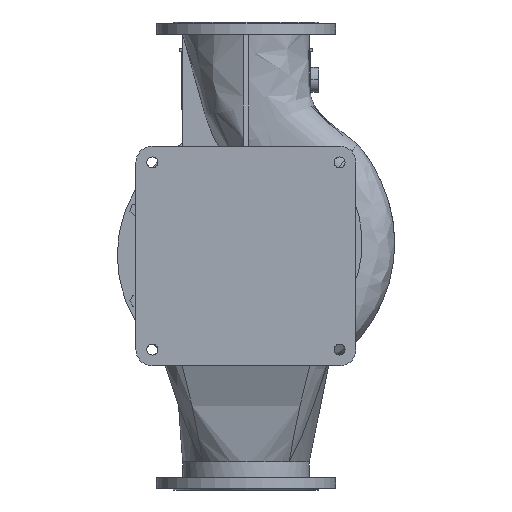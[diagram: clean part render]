
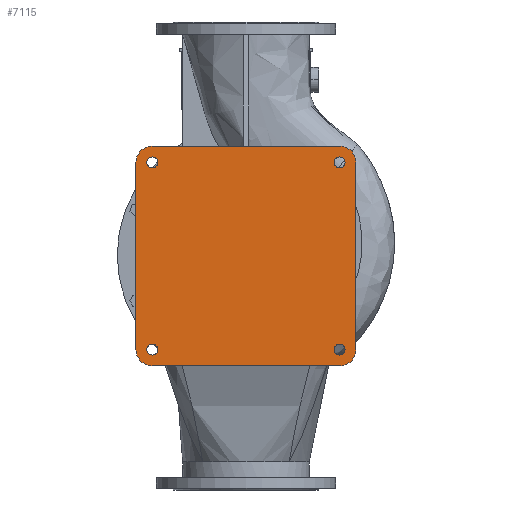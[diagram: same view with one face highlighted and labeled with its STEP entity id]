
A CAD part, front view. The second image highlights one B-rep face of the part: STEP entity #7115.
In plain terms, the highlighted planar face has unit normal (0, -1, 0).
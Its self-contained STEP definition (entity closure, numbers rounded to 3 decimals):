
#266 = AXIS2_PLACEMENT_3D ( 'NONE', #13751, #27599, #25156 ) ;
#874 = EDGE_CURVE ( 'NONE', #14026, #26870, #24909, .T. ) ;
#1160 = DIRECTION ( 'NONE',  ( 0., 0., 1. ) ) ;
#1498 = CARTESIAN_POINT ( 'NONE',  ( -240., -290., -282. ) ) ;
#1520 = LINE ( 'NONE', #21686, #19528 ) ;
#1585 = VECTOR ( 'NONE', #33171, 1000. ) ;
#1796 = CARTESIAN_POINT ( 'NONE',  ( -282., -290., -240. ) ) ;
#1958 = EDGE_LOOP ( 'NONE', ( #35408, #20367, #10116, #30332, #8263, #18002, #3985, #14419 ) ) ;
#2060 = DIRECTION ( 'NONE',  ( 0., 1., 0. ) ) ;
#2638 = CARTESIAN_POINT ( 'NONE',  ( 282., -290., 240. ) ) ;
#2854 = CARTESIAN_POINT ( 'NONE',  ( 282., -290., -240. ) ) ;
#3117 = VERTEX_POINT ( 'NONE', #27785 ) ;
#3171 = CARTESIAN_POINT ( 'NONE',  ( -282., -290., 240. ) ) ;
#3190 = DIRECTION ( 'NONE',  ( 0., 1., 0. ) ) ;
#3301 = CARTESIAN_POINT ( 'NONE',  ( 240., -290., -254. ) ) ;
#3978 = CARTESIAN_POINT ( 'NONE',  ( 240., -290., -240. ) ) ;
#3985 = ORIENTED_EDGE ( 'NONE', *, *, #874, .F. ) ;
#4105 = CARTESIAN_POINT ( 'NONE',  ( 240., -290., -226. ) ) ;
#4156 = EDGE_CURVE ( 'NONE', #13758, #14026, #1520, .T. ) ;
#4157 = DIRECTION ( 'NONE',  ( -1., 0., 0. ) ) ;
#4612 = LINE ( 'NONE', #1796, #19586 ) ;
#5128 = EDGE_CURVE ( 'NONE', #24677, #28329, #15959, .T. ) ;
#5185 = CARTESIAN_POINT ( 'NONE',  ( 240., -290., 240. ) ) ;
#5242 = AXIS2_PLACEMENT_3D ( 'NONE', #23022, #5846, #34646 ) ;
#5374 = EDGE_CURVE ( 'NONE', #15728, #24677, #35630, .T. ) ;
#5650 = DIRECTION ( 'NONE',  ( 0., 1., 0. ) ) ;
#5688 = CIRCLE ( 'NONE', #33777, 14. ) ;
#5846 = DIRECTION ( 'NONE',  ( 0., 1., 0. ) ) ;
#6019 = LINE ( 'NONE', #2854, #29874 ) ;
#6726 = CARTESIAN_POINT ( 'NONE',  ( -240., -290., 240. ) ) ;
#7115 = ADVANCED_FACE ( 'NONE', ( #32259, #34880, #27005, #21011, #29439 ), #32618, .T. ) ;
#7181 = CARTESIAN_POINT ( 'NONE',  ( 240., -290., 282. ) ) ;
#8005 = AXIS2_PLACEMENT_3D ( 'NONE', #3978, #26964, #29231 ) ;
#8263 = ORIENTED_EDGE ( 'NONE', *, *, #5374, .F. ) ;
#9253 = DIRECTION ( 'NONE',  ( 0., -1., 0. ) ) ;
#10007 = CIRCLE ( 'NONE', #5242, 14. ) ;
#10009 = EDGE_CURVE ( 'NONE', #31594, #17928, #23530, .T. ) ;
#10116 = ORIENTED_EDGE ( 'NONE', *, *, #12401, .F. ) ;
#10329 = VERTEX_POINT ( 'NONE', #32230 ) ;
#10573 = CARTESIAN_POINT ( 'NONE',  ( -282., -290., -240. ) ) ;
#10842 = DIRECTION ( 'NONE',  ( 0., 0., -1. ) ) ;
#11001 = EDGE_CURVE ( 'NONE', #28586, #33402, #5688, .T. ) ;
#11312 = ORIENTED_EDGE ( 'NONE', *, *, #17399, .T. ) ;
#11648 = VERTEX_POINT ( 'NONE', #35946 ) ;
#12155 = DIRECTION ( 'NONE',  ( 0., 0., 1. ) ) ;
#12208 = CIRCLE ( 'NONE', #266, 14. ) ;
#12227 = ORIENTED_EDGE ( 'NONE', *, *, #11001, .T. ) ;
#12318 = AXIS2_PLACEMENT_3D ( 'NONE', #33093, #36474, #10842 ) ;
#12401 = EDGE_CURVE ( 'NONE', #28329, #35635, #16486, .T. ) ;
#13713 = EDGE_LOOP ( 'NONE', ( #12227, #34643 ) ) ;
#13733 = EDGE_CURVE ( 'NONE', #33402, #28586, #10007, .T. ) ;
#13751 = CARTESIAN_POINT ( 'NONE',  ( -240., -290., 240. ) ) ;
#13758 = VERTEX_POINT ( 'NONE', #22826 ) ;
#14026 = VERTEX_POINT ( 'NONE', #1498 ) ;
#14178 = VERTEX_POINT ( 'NONE', #36085 ) ;
#14419 = ORIENTED_EDGE ( 'NONE', *, *, #4156, .F. ) ;
#14500 = DIRECTION ( 'NONE',  ( 0., 0., 1. ) ) ;
#15041 = DIRECTION ( 'NONE',  ( 0., 0., -1. ) ) ;
#15728 = VERTEX_POINT ( 'NONE', #3171 ) ;
#15959 = LINE ( 'NONE', #7181, #1585 ) ;
#16486 = CIRCLE ( 'NONE', #35066, 42. ) ;
#16525 = EDGE_LOOP ( 'NONE', ( #18303, #11312 ) ) ;
#17399 = EDGE_CURVE ( 'NONE', #11648, #10329, #26054, .T. ) ;
#17861 = DIRECTION ( 'NONE',  ( 0., 1., 0. ) ) ;
#17928 = VERTEX_POINT ( 'NONE', #4105 ) ;
#18002 = ORIENTED_EDGE ( 'NONE', *, *, #34549, .F. ) ;
#18303 = ORIENTED_EDGE ( 'NONE', *, *, #27498, .T. ) ;
#18472 = CARTESIAN_POINT ( 'NONE',  ( 240., -290., -240. ) ) ;
#19528 = VECTOR ( 'NONE', #4157, 1000. ) ;
#19586 = VECTOR ( 'NONE', #36018, 1000. ) ;
#20367 = ORIENTED_EDGE ( 'NONE', *, *, #23951, .F. ) ;
#21011 = FACE_BOUND ( 'NONE', #13713, .T. ) ;
#21135 = CARTESIAN_POINT ( 'NONE',  ( -240., -290., -240. ) ) ;
#21686 = CARTESIAN_POINT ( 'NONE',  ( -240., -290., -282. ) ) ;
#22826 = CARTESIAN_POINT ( 'NONE',  ( 240., -290., -282. ) ) ;
#23022 = CARTESIAN_POINT ( 'NONE',  ( 240., -290., 240. ) ) ;
#23530 = CIRCLE ( 'NONE', #26527, 14. ) ;
#23951 = EDGE_CURVE ( 'NONE', #35635, #31432, #6019, .T. ) ;
#24670 = CIRCLE ( 'NONE', #25894, 14. ) ;
#24675 = DIRECTION ( 'NONE',  ( 0., 0., -1. ) ) ;
#24677 = VERTEX_POINT ( 'NONE', #25972 ) ;
#24909 = CIRCLE ( 'NONE', #36276, 42. ) ;
#25156 = DIRECTION ( 'NONE',  ( 0., 0., 1. ) ) ;
#25201 = DIRECTION ( 'NONE',  ( 0., 1., 0. ) ) ;
#25450 = CARTESIAN_POINT ( 'NONE',  ( 240., -290., 226. ) ) ;
#25758 = ORIENTED_EDGE ( 'NONE', *, *, #10009, .T. ) ;
#25894 = AXIS2_PLACEMENT_3D ( 'NONE', #28104, #5650, #31461 ) ;
#25972 = CARTESIAN_POINT ( 'NONE',  ( -240., -290., 282. ) ) ;
#26054 = CIRCLE ( 'NONE', #27254, 14. ) ;
#26527 = AXIS2_PLACEMENT_3D ( 'NONE', #29452, #17861, #14500 ) ;
#26870 = VERTEX_POINT ( 'NONE', #10573 ) ;
#26964 = DIRECTION ( 'NONE',  ( 0., 1., 0. ) ) ;
#27005 = FACE_OUTER_BOUND ( 'NONE', #1958, .T. ) ;
#27254 = AXIS2_PLACEMENT_3D ( 'NONE', #21135, #30104, #1160 ) ;
#27458 = EDGE_LOOP ( 'NONE', ( #25758, #36351 ) ) ;
#27498 = EDGE_CURVE ( 'NONE', #10329, #11648, #24670, .T. ) ;
#27599 = DIRECTION ( 'NONE',  ( 0., 1., 0. ) ) ;
#27715 = CIRCLE ( 'NONE', #8005, 42. ) ;
#27785 = CARTESIAN_POINT ( 'NONE',  ( -240., -290., 226. ) ) ;
#27984 = EDGE_LOOP ( 'NONE', ( #30808, #32419 ) ) ;
#28104 = CARTESIAN_POINT ( 'NONE',  ( -240., -290., -240. ) ) ;
#28179 = CARTESIAN_POINT ( 'NONE',  ( 282., -290., -240. ) ) ;
#28224 = EDGE_CURVE ( 'NONE', #31432, #13758, #27715, .T. ) ;
#28322 = CIRCLE ( 'NONE', #34935, 14. ) ;
#28329 = VERTEX_POINT ( 'NONE', #35213 ) ;
#28586 = VERTEX_POINT ( 'NONE', #25450 ) ;
#28660 = EDGE_CURVE ( 'NONE', #17928, #31594, #28322, .T. ) ;
#28827 = DIRECTION ( 'NONE',  ( 0., 0., -1. ) ) ;
#28950 = EDGE_CURVE ( 'NONE', #3117, #14178, #12208, .T. ) ;
#28964 = DIRECTION ( 'NONE',  ( 0., 1., 0. ) ) ;
#29231 = DIRECTION ( 'NONE',  ( 0., 0., -1. ) ) ;
#29439 = FACE_BOUND ( 'NONE', #16525, .T. ) ;
#29452 = CARTESIAN_POINT ( 'NONE',  ( 240., -290., -240. ) ) ;
#29613 = EDGE_CURVE ( 'NONE', #14178, #3117, #30187, .T. ) ;
#29652 = DIRECTION ( 'NONE',  ( 0., 0., -1. ) ) ;
#29874 = VECTOR ( 'NONE', #28827, 1000. ) ;
#29929 = CARTESIAN_POINT ( 'NONE',  ( -240., -290., -240. ) ) ;
#29983 = CARTESIAN_POINT ( 'NONE',  ( 240., -290., -240. ) ) ;
#30104 = DIRECTION ( 'NONE',  ( 0., 1., 0. ) ) ;
#30179 = CARTESIAN_POINT ( 'NONE',  ( 240., -290., 254. ) ) ;
#30187 = CIRCLE ( 'NONE', #31992, 14. ) ;
#30332 = ORIENTED_EDGE ( 'NONE', *, *, #5128, .F. ) ;
#30472 = CARTESIAN_POINT ( 'NONE',  ( 240., -290., 240. ) ) ;
#30808 = ORIENTED_EDGE ( 'NONE', *, *, #28950, .T. ) ;
#30823 = DIRECTION ( 'NONE',  ( 0., 0., 1. ) ) ;
#31343 = DIRECTION ( 'NONE',  ( 0., 0., 1. ) ) ;
#31432 = VERTEX_POINT ( 'NONE', #28179 ) ;
#31461 = DIRECTION ( 'NONE',  ( 0., 0., 1. ) ) ;
#31542 = DIRECTION ( 'NONE',  ( 0., 1., 0. ) ) ;
#31545 = AXIS2_PLACEMENT_3D ( 'NONE', #29983, #9253, #15041 ) ;
#31594 = VERTEX_POINT ( 'NONE', #3301 ) ;
#31992 = AXIS2_PLACEMENT_3D ( 'NONE', #6726, #3190, #12155 ) ;
#32230 = CARTESIAN_POINT ( 'NONE',  ( -240., -290., -254. ) ) ;
#32259 = FACE_BOUND ( 'NONE', #27984, .T. ) ;
#32419 = ORIENTED_EDGE ( 'NONE', *, *, #29613, .T. ) ;
#32618 = PLANE ( 'NONE',  #31545 ) ;
#33093 = CARTESIAN_POINT ( 'NONE',  ( -240., -290., 240. ) ) ;
#33171 = DIRECTION ( 'NONE',  ( 1., 0., 0. ) ) ;
#33402 = VERTEX_POINT ( 'NONE', #30179 ) ;
#33777 = AXIS2_PLACEMENT_3D ( 'NONE', #5185, #31542, #31343 ) ;
#34549 = EDGE_CURVE ( 'NONE', #26870, #15728, #4612, .T. ) ;
#34643 = ORIENTED_EDGE ( 'NONE', *, *, #13733, .T. ) ;
#34646 = DIRECTION ( 'NONE',  ( 0., 0., 1. ) ) ;
#34880 = FACE_BOUND ( 'NONE', #27458, .T. ) ;
#34935 = AXIS2_PLACEMENT_3D ( 'NONE', #18472, #25201, #30823 ) ;
#35066 = AXIS2_PLACEMENT_3D ( 'NONE', #30472, #28964, #29652 ) ;
#35213 = CARTESIAN_POINT ( 'NONE',  ( 240., -290., 282. ) ) ;
#35408 = ORIENTED_EDGE ( 'NONE', *, *, #28224, .F. ) ;
#35630 = CIRCLE ( 'NONE', #12318, 42. ) ;
#35635 = VERTEX_POINT ( 'NONE', #2638 ) ;
#35946 = CARTESIAN_POINT ( 'NONE',  ( -240., -290., -226. ) ) ;
#36018 = DIRECTION ( 'NONE',  ( 0., 0., 1. ) ) ;
#36085 = CARTESIAN_POINT ( 'NONE',  ( -240., -290., 254. ) ) ;
#36276 = AXIS2_PLACEMENT_3D ( 'NONE', #29929, #2060, #24675 ) ;
#36351 = ORIENTED_EDGE ( 'NONE', *, *, #28660, .T. ) ;
#36474 = DIRECTION ( 'NONE',  ( 0., 1., 0. ) ) ;
